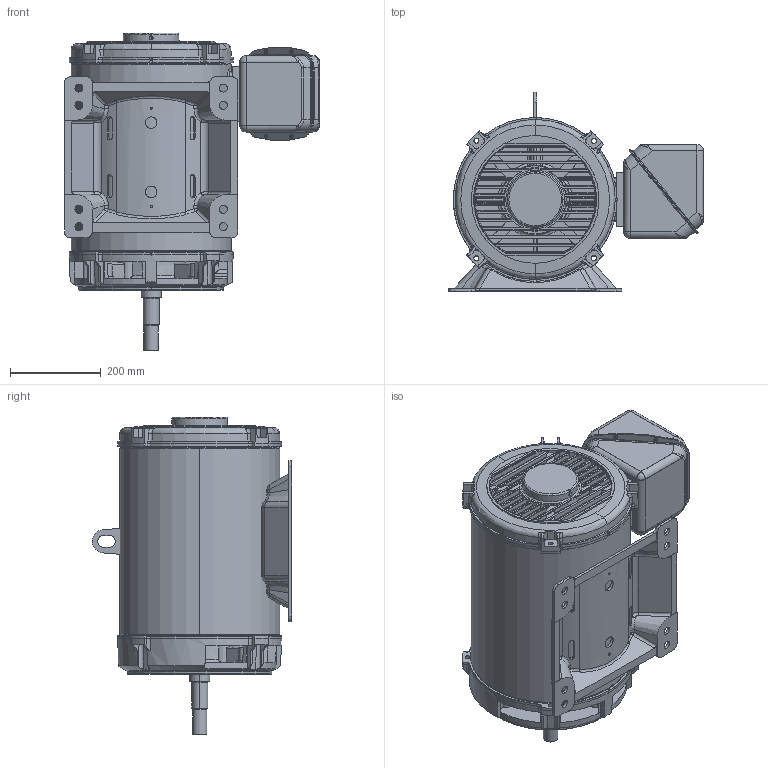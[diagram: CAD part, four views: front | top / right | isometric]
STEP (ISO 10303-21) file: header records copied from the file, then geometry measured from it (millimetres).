
FILE_DESCRIPTION((''),'2;1');
FILE_NAME('320_CCP_ASSY_ASM','2016-03-26T',('EMD2341'),('Nidec Motor Corporation'),'PRO/ENGINEER BY PARAMETRIC TECHNOLOGY CORPORATION, 2013150','PRO/ENGINEER BY PARAMETRIC TECHNOLOGY CORPORATION, 2013150','');
FILE_SCHEMA(('CONFIG_CONTROL_DESIGN'));
Length unit declared in the file: inch
Products named in the file (12): 320_D_FRAME; 0393808-002; 0393774-002; 0576979; 0393760; 0521682; 0392792; 0391696; 0378702; 0378703; PRT0001; 320_CCP_ASSY_ASM
Assembly tree (11 placements, depth 2):
  320_CCP_ASSY_ASM
    320_D_FRAME
    0393808-002
    0393774-002
    0576979
    0393760
    0521682
    0392792
    0391696
    0378702
    0378703
    PRT0001
Bounding box: 560.62 x 439.11 x 698.34 mm (x, y, z)
Volume: 9509258 mm3; surface area: 2773471.1 mm2
Topology: 15 solids, 15 shells, 1721 faces, 4556 edges, 2824 vertices
Faces by surface type: plane 595, cylinder 478, cone 270, bspline 222, torus 140, sphere 16
Entity records: 64606 total; most frequent: CARTESIAN_POINT 24388, ORIENTED_EDGE 9044, DIRECTION 7538, EDGE_CURVE 4522, AXIS2_PLACEMENT_3D 3018, VERTEX_POINT 2824, EDGE_LOOP 1882, FACE_OUTER_BOUND 1721
